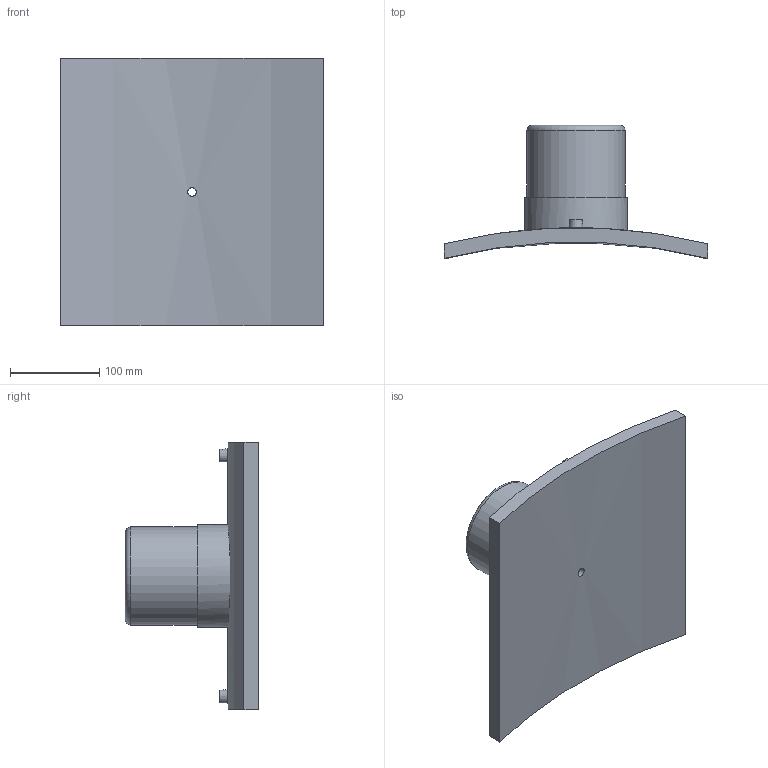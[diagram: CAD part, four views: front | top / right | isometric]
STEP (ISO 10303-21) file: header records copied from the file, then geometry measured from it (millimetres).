
FILE_DESCRIPTION(/* description */ ('PLASSON BRANCH SADDLE 1200x110'),/* implementation_level */ '2;1');
FILE_NAME(/* name */ 'C:\Dropbox\99-16-3568-Processing\ElectroFusion Fittings\495803\4958031200110T.ipt.stp',/* time_stamp */ '2021-02-25T09:43:28+02:00',/* author */ ('KIM'),/* organization */ (''),/* preprocessor_version */ 'ST-DEVELOPER v17.2',/* originating_system */ 'Autodesk Inventor 2019',/* authorisation */ '');
FILE_SCHEMA (('AUTOMOTIVE_DESIGN { 1 0 10303 214 3 1 1 }'));
Length unit declared in the file: millimetre
Products named in the file (1): 4958031200110T
Bounding box: 295 x 149.41 x 300 mm (x, y, z)
Volume: 1864998.2 mm3; surface area: 276410.1 mm2
Topology: 1 solids, 1 shells, 28 faces, 58 edges, 41 vertices
Faces by surface type: cylinder 12, plane 12, torus 2, cone 2
Full cylindrical faces by diameter (mm): 4 x2, 9.6 x1, 10 x2, 16 x1, 88 x1, 110 x1, 115.5 x1
Entity records: 1056 total; most frequent: CARTESIAN_POINT 395, DIRECTION 133, ORIENTED_EDGE 116, EDGE_CURVE 58, AXIS2_PLACEMENT_3D 57, VERTEX_POINT 41, EDGE_LOOP 39, FACE_OUTER_BOUND 28
